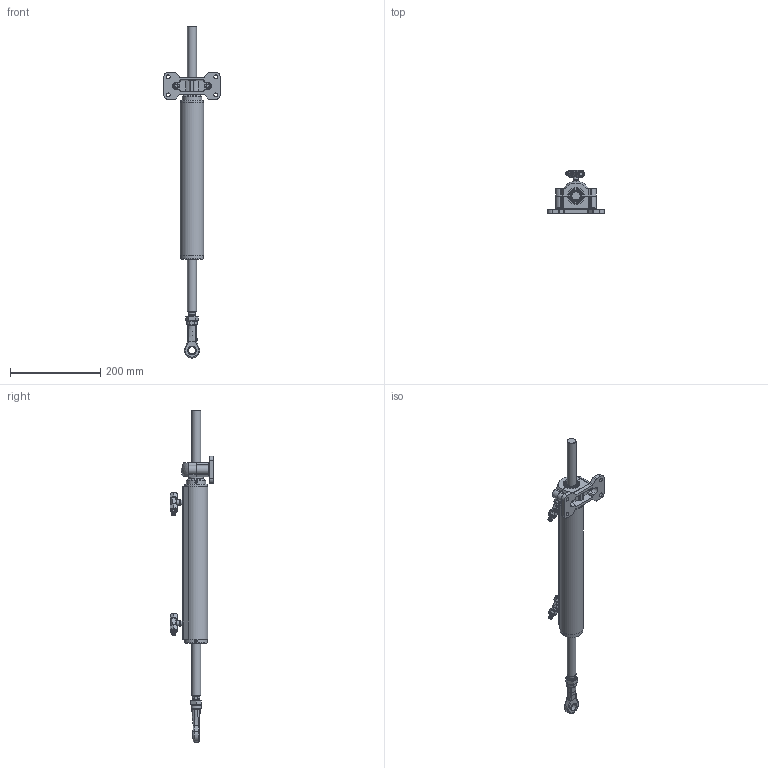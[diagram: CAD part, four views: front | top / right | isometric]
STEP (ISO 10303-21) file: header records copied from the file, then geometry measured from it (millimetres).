
FILE_DESCRIPTION(/* description */ (''),/* implementation_level */ '2;1');
FILE_NAME(/* name */ 'UC125.stp',/* time_stamp */ '2020-03-11T16:56:11+01:00',/* author */ (''),/* organization */ (''),/* preprocessor_version */ 'ST-DEVELOPER v16.7',/* originating_system */ 'SIEMENS PLM Software NX 1855',/* authorisation */ '');
FILE_SCHEMA (('AUTOMOTIVE_DESIGN { 1 0 10303 214 3 1 1 1 }'));
Products named in the file (18): 21092 RACCORDO A T PER TUBO 3-8 NICHELATO CON DRY SEAL; 21743; new 18530 TESTATA ANTERIORE UC168 - UC215; 15815 SEMIBOCCOLA PER SNODO SFERICO; 1293; ISO 4762 - M8 x 35; 15814 SEMISTAFFA SUPERIORE UC168 - UC215; 15813 SEMISTAFFA INFERIORE UC168 - UC215; 8716; ADATTATORE; 18749; 18580; 17287; 23138 STELO UC-215; 21787; new 18529 TESTATA LATO SNODO UC168-UC215; 18539 CORPO UC-215; model1
Assembly tree (27 placements, depth 2):
  model1
    18539 CORPO UC-215
    new 18529 TESTATA LATO SNODO UC168-UC215
    21787
    23138 STELO UC-215
    17287
    18580
    18749  x4
    ADATTATORE  x2
    8716  x2
    15813 SEMISTAFFA INFERIORE UC168 - UC215
    15814 SEMISTAFFA SUPERIORE UC168 - UC215
    ISO 4762 - M8 x 35  x2
    1293  x2
    15815 SEMIBOCCOLA PER SNODO SFERICO  x2
    new 18530 TESTATA ANTERIORE UC168 - UC215
    21743  x2
    21092 RACCORDO A T PER TUBO 3-8 NICHELATO CON DRY SEAL  x2
Bounding box: 125 x 97 x 734.86 mm (x, y, z)
Volume: 1162372.2 mm3; surface area: 215704.4 mm2
Topology: 27 solids, 31 shells, 867 faces, 1973 edges, 1203 vertices
Faces by surface type: plane 328, cone 217, cylinder 200, torus 66, bspline 47, sphere 9
Full cylindrical faces by diameter (mm): 1.5 x2, 3.5 x1, 4.1 x4, 6.647 x2, 6.7 x2, 7.2 x2, 8 x2, 8.05 x2, 8.5 x8, 8.8 x4, 9.4 x4, 9.5 x4, 11 x2, 12 x4, 12.7 x2, 13 x4, 13.132 x4, 13.5 x2, 13.709 x4, 14.287 x4, 14.351 x2, 14.529 x1, 15.875 x2, 17.5 x1, 20 x3, 20.8 x1, 23 x3, 26 x4, 28 x4, 32 x1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
Entity records: 17258 total; most frequent: CARTESIAN_POINT 4647, DIRECTION 2602, ORIENTED_EDGE 2232, EDGE_CURVE 1116, AXIS2_PLACEMENT_3D 1095, EDGE_LOOP 818, VERTEX_POINT 784, ADVANCED_FACE 583
